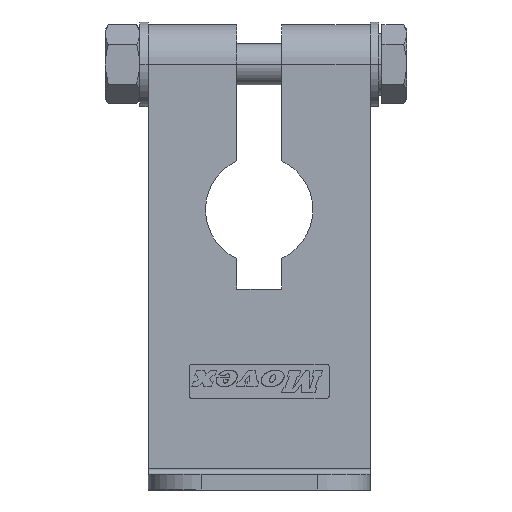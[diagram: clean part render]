
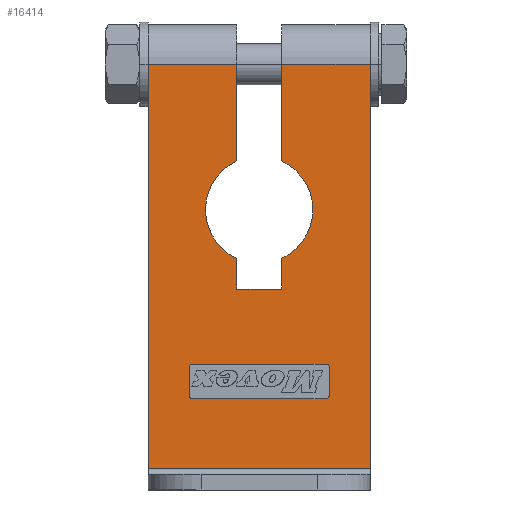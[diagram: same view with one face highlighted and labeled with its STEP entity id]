
A CAD part, left-side view. The second image highlights one B-rep face of the part: STEP entity #16414.
In plain terms, the highlighted planar face has unit normal (-1, 0, 0).
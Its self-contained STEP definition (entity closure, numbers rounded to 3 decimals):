
#336=CARTESIAN_POINT('Vertex',(-31.5,-21.,4.)) ;
#339=CARTESIAN_POINT('Line Origine',(-31.5,0.,4.)) ;
#343=CARTESIAN_POINT('Vertex',(-31.5,21.,4.)) ;
#681=CARTESIAN_POINT('Line Origine',(-31.5,21.,42.25)) ;
#685=CARTESIAN_POINT('Vertex',(-31.5,21.,80.5)) ;
#856=CARTESIAN_POINT('Vertex',(-31.5,-21.,80.5)) ;
#859=CARTESIAN_POINT('Line Origine',(-31.5,-21.,42.25)) ;
#1394=CARTESIAN_POINT('Line Origine',(-31.5,0.,80.5)) ;
#1398=CARTESIAN_POINT('Vertex',(-31.5,-4.25,80.5)) ;
#1427=CARTESIAN_POINT('Line Origine',(-31.5,0.,80.5)) ;
#1431=CARTESIAN_POINT('Vertex',(-31.5,4.25,80.5)) ;
#1635=CARTESIAN_POINT('Line Origine',(-31.5,4.25,71.359)) ;
#1639=CARTESIAN_POINT('Vertex',(-31.5,4.25,62.217)) ;
#1690=CARTESIAN_POINT('Axis2P3D Location',(-31.5,0.,53.)) ;
#1694=CARTESIAN_POINT('Vertex',(-31.5,4.25,43.783)) ;
#1728=CARTESIAN_POINT('Line Origine',(-31.5,4.25,40.891)) ;
#1732=CARTESIAN_POINT('Vertex',(-31.5,4.25,38.)) ;
#1771=CARTESIAN_POINT('Line Origine',(-31.5,0.,38.)) ;
#1775=CARTESIAN_POINT('Vertex',(-31.5,-4.25,38.)) ;
#1814=CARTESIAN_POINT('Line Origine',(-31.5,-4.25,40.891)) ;
#1818=CARTESIAN_POINT('Vertex',(-31.5,-4.25,43.783)) ;
#1857=CARTESIAN_POINT('Axis2P3D Location',(-31.5,0.,53.)) ;
#1861=CARTESIAN_POINT('Vertex',(-31.5,-4.25,62.217)) ;
#1876=CARTESIAN_POINT('Line Origine',(-31.5,-4.25,71.359)) ;
#16329=CARTESIAN_POINT('Axis2P3D Location',(-31.5,0.,4.)) ;
#16348=CARTESIAN_POINT('Axis2P3D Location',(-31.5,12.65,23.2)) ;
#16352=CARTESIAN_POINT('Vertex',(-31.5,12.65,23.8)) ;
#16354=CARTESIAN_POINT('Vertex',(-31.5,13.25,23.2)) ;
#16357=CARTESIAN_POINT('Line Origine',(-31.5,0.,23.8)) ;
#16361=CARTESIAN_POINT('Vertex',(-31.5,-12.65,23.8)) ;
#16364=CARTESIAN_POINT('Axis2P3D Location',(-31.5,-12.65,23.2)) ;
#16368=CARTESIAN_POINT('Vertex',(-31.5,-13.25,23.2)) ;
#16371=CARTESIAN_POINT('Line Origine',(-31.5,-13.25,20.55)) ;
#16375=CARTESIAN_POINT('Vertex',(-31.5,-13.25,17.9)) ;
#16378=CARTESIAN_POINT('Axis2P3D Location',(-31.5,-12.65,17.9)) ;
#16382=CARTESIAN_POINT('Vertex',(-31.5,-12.65,17.3)) ;
#16385=CARTESIAN_POINT('Line Origine',(-31.5,0.,17.3)) ;
#16389=CARTESIAN_POINT('Vertex',(-31.5,12.65,17.3)) ;
#16392=CARTESIAN_POINT('Axis2P3D Location',(-31.5,12.65,17.9)) ;
#16396=CARTESIAN_POINT('Vertex',(-31.5,13.25,17.9)) ;
#16399=CARTESIAN_POINT('Line Origine',(-31.5,13.25,20.55)) ;
#340=DIRECTION('Vector Direction',(0.,1.,0.)) ;
#682=DIRECTION('Vector Direction',(0.,0.,1.)) ;
#860=DIRECTION('Vector Direction',(0.,0.,1.)) ;
#1395=DIRECTION('Vector Direction',(0.,1.,0.)) ;
#1428=DIRECTION('Vector Direction',(0.,1.,0.)) ;
#1636=DIRECTION('Vector Direction',(0.,0.,-1.)) ;
#1691=DIRECTION('Axis2P3D Direction',(1.,0.,0.)) ;
#1729=DIRECTION('Vector Direction',(0.,0.,1.)) ;
#1772=DIRECTION('Vector Direction',(0.,1.,0.)) ;
#1815=DIRECTION('Vector Direction',(0.,0.,-1.)) ;
#1858=DIRECTION('Axis2P3D Direction',(1.,0.,0.)) ;
#1877=DIRECTION('Vector Direction',(0.,0.,-1.)) ;
#16330=DIRECTION('Axis2P3D Direction',(-1.,0.,0.)) ;
#16331=DIRECTION('Axis2P3D XDirection',(0.,0.,1.)) ;
#16349=DIRECTION('Axis2P3D Direction',(-1.,0.,0.)) ;
#16358=DIRECTION('Vector Direction',(0.,1.,0.)) ;
#16365=DIRECTION('Axis2P3D Direction',(-1.,0.,0.)) ;
#16372=DIRECTION('Vector Direction',(0.,0.,-1.)) ;
#16379=DIRECTION('Axis2P3D Direction',(-1.,0.,0.)) ;
#16386=DIRECTION('Vector Direction',(0.,1.,0.)) ;
#16393=DIRECTION('Axis2P3D Direction',(-1.,0.,0.)) ;
#16400=DIRECTION('Vector Direction',(0.,0.,1.)) ;
#1692=AXIS2_PLACEMENT_3D('Circle Axis2P3D',#1690,#1691,$) ;
#1859=AXIS2_PLACEMENT_3D('Circle Axis2P3D',#1857,#1858,$) ;
#16332=AXIS2_PLACEMENT_3D('Plane Axis2P3D',#16329,#16330,#16331) ;
#16350=AXIS2_PLACEMENT_3D('Circle Axis2P3D',#16348,#16349,$) ;
#16366=AXIS2_PLACEMENT_3D('Circle Axis2P3D',#16364,#16365,$) ;
#16380=AXIS2_PLACEMENT_3D('Circle Axis2P3D',#16378,#16379,$) ;
#16394=AXIS2_PLACEMENT_3D('Circle Axis2P3D',#16392,#16393,$) ;
#16335=ORIENTED_EDGE('',*,*,#1433,.T.) ;
#16336=ORIENTED_EDGE('',*,*,#687,.F.) ;
#16337=ORIENTED_EDGE('',*,*,#345,.F.) ;
#16338=ORIENTED_EDGE('',*,*,#863,.T.) ;
#16339=ORIENTED_EDGE('',*,*,#1400,.T.) ;
#16340=ORIENTED_EDGE('',*,*,#1880,.T.) ;
#16341=ORIENTED_EDGE('',*,*,#1863,.F.) ;
#16342=ORIENTED_EDGE('',*,*,#1820,.T.) ;
#16343=ORIENTED_EDGE('',*,*,#1777,.T.) ;
#16344=ORIENTED_EDGE('',*,*,#1734,.T.) ;
#16345=ORIENTED_EDGE('',*,*,#1696,.F.) ;
#16346=ORIENTED_EDGE('',*,*,#1641,.F.) ;
#16405=ORIENTED_EDGE('',*,*,#16356,.F.) ;
#16406=ORIENTED_EDGE('',*,*,#16363,.F.) ;
#16407=ORIENTED_EDGE('',*,*,#16370,.F.) ;
#16408=ORIENTED_EDGE('',*,*,#16377,.F.) ;
#16409=ORIENTED_EDGE('',*,*,#16384,.F.) ;
#16410=ORIENTED_EDGE('',*,*,#16391,.F.) ;
#16411=ORIENTED_EDGE('',*,*,#16398,.F.) ;
#16412=ORIENTED_EDGE('',*,*,#16403,.F.) ;
#16413=FACE_BOUND('',#16404,.T.) ;
#341=VECTOR('Line Direction',#340,1.) ;
#683=VECTOR('Line Direction',#682,1.) ;
#861=VECTOR('Line Direction',#860,1.) ;
#1396=VECTOR('Line Direction',#1395,1.) ;
#1429=VECTOR('Line Direction',#1428,1.) ;
#1637=VECTOR('Line Direction',#1636,1.) ;
#1730=VECTOR('Line Direction',#1729,1.) ;
#1773=VECTOR('Line Direction',#1772,1.) ;
#1816=VECTOR('Line Direction',#1815,1.) ;
#1878=VECTOR('Line Direction',#1877,1.) ;
#16359=VECTOR('Line Direction',#16358,1.) ;
#16373=VECTOR('Line Direction',#16372,1.) ;
#16387=VECTOR('Line Direction',#16386,1.) ;
#16401=VECTOR('Line Direction',#16400,1.) ;
#16414=ADVANCED_FACE('PartBody',(#16347,#16413),#16333,.T.) ;
#1693=CIRCLE('generated circle',#1692,10.15) ;
#1860=CIRCLE('generated circle',#1859,10.15) ;
#16351=CIRCLE('generated circle',#16350,0.6) ;
#16367=CIRCLE('generated circle',#16366,0.6) ;
#16381=CIRCLE('generated circle',#16380,0.6) ;
#16395=CIRCLE('generated circle',#16394,0.6) ;
#345=EDGE_CURVE('',#337,#344,#342,.T.) ;
#687=EDGE_CURVE('',#344,#686,#684,.T.) ;
#863=EDGE_CURVE('',#337,#857,#862,.T.) ;
#1400=EDGE_CURVE('',#857,#1399,#1397,.T.) ;
#1433=EDGE_CURVE('',#1432,#686,#1430,.T.) ;
#1641=EDGE_CURVE('',#1432,#1640,#1638,.T.) ;
#1696=EDGE_CURVE('',#1640,#1695,#1693,.F.) ;
#1734=EDGE_CURVE('',#1733,#1695,#1731,.T.) ;
#1777=EDGE_CURVE('',#1776,#1733,#1774,.T.) ;
#1820=EDGE_CURVE('',#1819,#1776,#1817,.T.) ;
#1863=EDGE_CURVE('',#1819,#1862,#1860,.F.) ;
#1880=EDGE_CURVE('',#1399,#1862,#1879,.T.) ;
#16356=EDGE_CURVE('',#16353,#16355,#16351,.T.) ;
#16363=EDGE_CURVE('',#16362,#16353,#16360,.T.) ;
#16370=EDGE_CURVE('',#16369,#16362,#16367,.T.) ;
#16377=EDGE_CURVE('',#16376,#16369,#16374,.F.) ;
#16384=EDGE_CURVE('',#16383,#16376,#16381,.T.) ;
#16391=EDGE_CURVE('',#16390,#16383,#16388,.F.) ;
#16398=EDGE_CURVE('',#16397,#16390,#16395,.T.) ;
#16403=EDGE_CURVE('',#16355,#16397,#16402,.F.) ;
#16334=EDGE_LOOP('',(#16335,#16336,#16337,#16338,#16339,#16340,#16341,#16342,#16343,#16344,#16345,#16346)) ;
#16404=EDGE_LOOP('',(#16405,#16406,#16407,#16408,#16409,#16410,#16411,#16412)) ;
#16347=FACE_OUTER_BOUND('',#16334,.T.) ;
#342=LINE('Line',#339,#341) ;
#684=LINE('Line',#681,#683) ;
#862=LINE('Line',#859,#861) ;
#1397=LINE('Line',#1394,#1396) ;
#1430=LINE('Line',#1427,#1429) ;
#1638=LINE('Line',#1635,#1637) ;
#1731=LINE('Line',#1728,#1730) ;
#1774=LINE('Line',#1771,#1773) ;
#1817=LINE('Line',#1814,#1816) ;
#1879=LINE('Line',#1876,#1878) ;
#16360=LINE('Line',#16357,#16359) ;
#16374=LINE('Line',#16371,#16373) ;
#16388=LINE('Line',#16385,#16387) ;
#16402=LINE('Line',#16399,#16401) ;
#16333=PLANE('',#16332) ;
#337=VERTEX_POINT('',#336) ;
#344=VERTEX_POINT('',#343) ;
#686=VERTEX_POINT('',#685) ;
#857=VERTEX_POINT('',#856) ;
#1399=VERTEX_POINT('',#1398) ;
#1432=VERTEX_POINT('',#1431) ;
#1640=VERTEX_POINT('',#1639) ;
#1695=VERTEX_POINT('',#1694) ;
#1733=VERTEX_POINT('',#1732) ;
#1776=VERTEX_POINT('',#1775) ;
#1819=VERTEX_POINT('',#1818) ;
#1862=VERTEX_POINT('',#1861) ;
#16353=VERTEX_POINT('',#16352) ;
#16355=VERTEX_POINT('',#16354) ;
#16362=VERTEX_POINT('',#16361) ;
#16369=VERTEX_POINT('',#16368) ;
#16376=VERTEX_POINT('',#16375) ;
#16383=VERTEX_POINT('',#16382) ;
#16390=VERTEX_POINT('',#16389) ;
#16397=VERTEX_POINT('',#16396) ;
